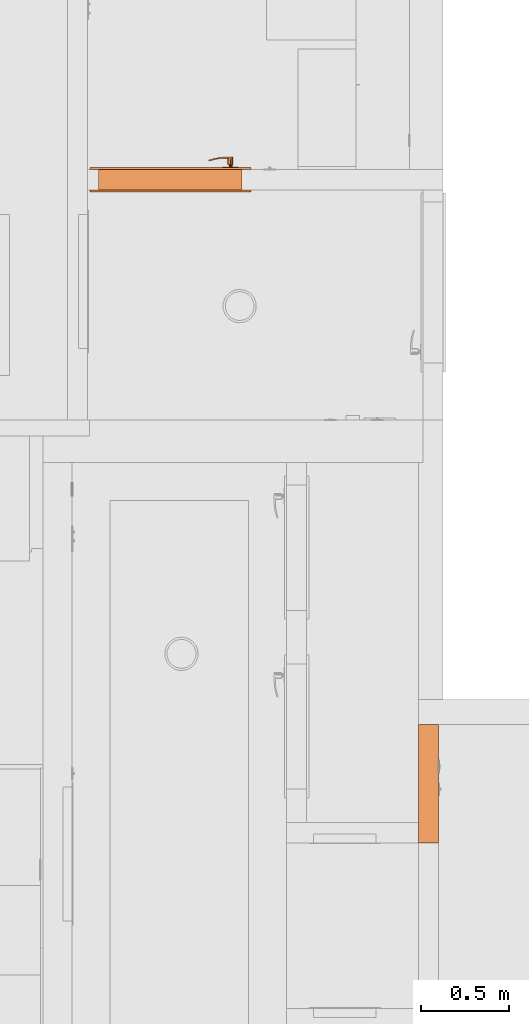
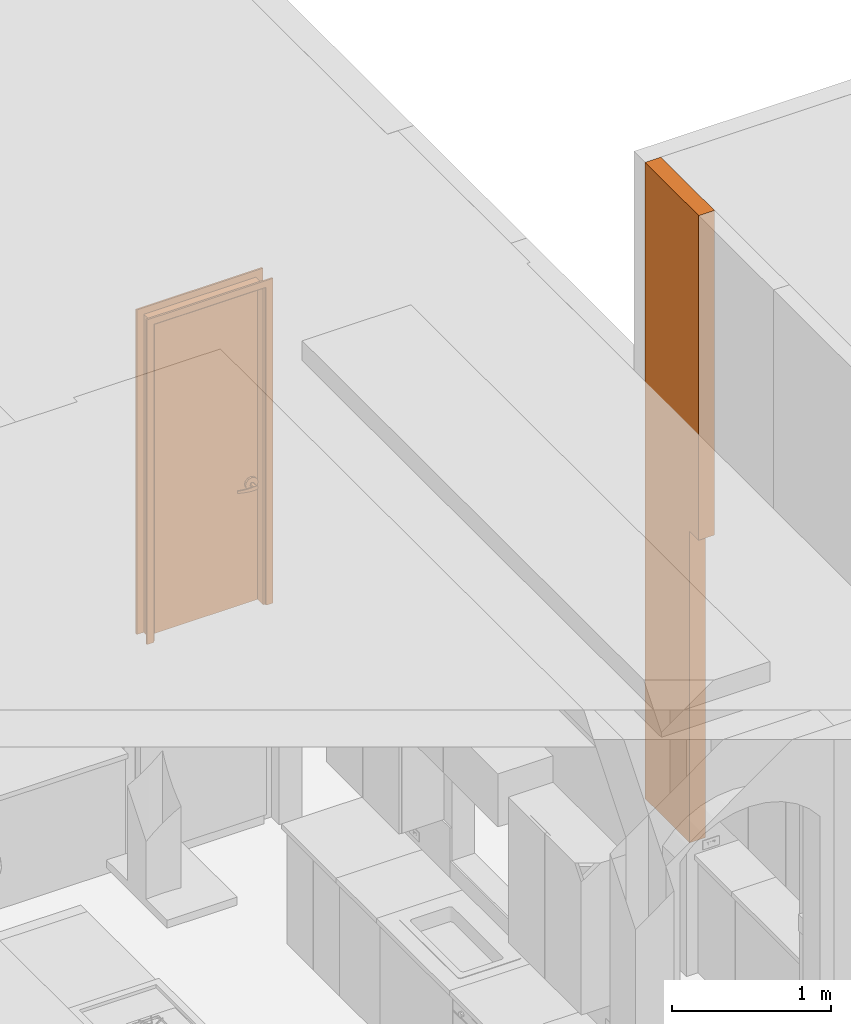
# One storey, part 94 of 103: 2 proxies.
"""IFC2X3 building model written with IfcOpenShell, lengths in inches."""

from ifc_helpers import new_model, entity, si_unit, converted_unit, derived_unit, money_unit, direction, frame, origin_with_axes, place, context, subcontext, project, spatial, open_shell, faceted_brep, surface_model, material, type_object, element, save


model = new_model("IFC2X3")

# Units and contexts
model_context = context("Model", 3, precision=0.00039370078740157, world=origin_with_axes(), true_north=direction((0.0, 1.0)))
plan_context = context("Plan", 3, precision=0.00039370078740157, world=origin_with_axes(), true_north=direction((0.0, 1.0)))
body_context = subcontext(model_context, "Body", "Model", "MODEL_VIEW")
ifc_project = project(units=[converted_unit("LENGTHUNIT", "INCH", entity("IfcPositiveLengthMeasure", 0.0254), si_unit("LENGTHUNIT", "METRE"), dimensions=[1, 0, 0, 0, 0, 0, 0]), converted_unit("AREAUNIT", "SQUARE_FOOT", entity("IfcPositiveLengthMeasure", 0.09290304), si_unit("AREAUNIT", "SQUARE_METRE"), dimensions=[2, 0, 0, 0, 0, 0, 0]), si_unit("PLANEANGLEUNIT", "RADIAN"), si_unit("SOLIDANGLEUNIT", "STERADIAN"), money_unit("USD"), converted_unit("TIMEUNIT", "Year", entity("IfcTimeMeasure", 31557600.0), si_unit("TIMEUNIT", "SECOND"), dimensions=[0, 0, 1, 0, 0, 0, 0]), si_unit("MASSUNIT", "GRAM", prefix="KILO"), si_unit("THERMODYNAMICTEMPERATUREUNIT", "DEGREE_CELSIUS"), si_unit("LUMINOUSINTENSITYUNIT", "LUMEN"), si_unit("ENERGYUNIT", "JOULE", prefix="MEGA"), derived_unit("SPECIFICHEATCAPACITYUNIT", [(si_unit("ENERGYUNIT", "JOULE"), 1), (si_unit("MASSUNIT", "GRAM", prefix="KILO"), -1), (si_unit("THERMODYNAMICTEMPERATUREUNIT", "KELVIN"), -1)])], contexts=[model_context, plan_context])

# Site, building, storey
site_placement = place(None, origin_with_axes())
site = spatial("IfcSite", under=ifc_project, at=site_placement, Name="Site", CompositionType="ELEMENT")
building_placement = place(site_placement, origin_with_axes())
building = spatial("IfcBuilding", under=site, at=building_placement, Name="Building", CompositionType="ELEMENT")
storey_placement = place(building_placement, frame((0.0, 0.0, 127.9999999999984), z_axis=(0.0, 0.0, 1.0), x_axis=(1.0, 0.0, 0.0)))
storey = spatial("IfcBuildingStorey", under=building, at=storey_placement, Name="Second Floor", CompositionType="ELEMENT", Elevation=128.0)

# Proxies
ifc_material = material(Name="Generic - Structural")
building_element_proxy_type_1 = type_object("IfcBuildingElementProxyType", Name="Generic - Structural 4 1/2\"", PredefinedType="NOTDEFINED")
proxy_1_placement = place(storey_placement, frame((243.4999999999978, 306.4999999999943, 0.0), z_axis=(0.0, 0.0, 1.0), x_axis=(0.0, 1.0, 0.0)))
element("IfcBuildingElementProxy", 1, at=proxy_1_placement, inside=storey, type_object=building_element_proxy_type_1, material=ifc_material, Name="SW - 106", context=body_context, shape_type="Brep", body=[
    faceted_brep([(0.0, 0.0, 93.99999999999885), (4.500000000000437, 0.0, 93.99999999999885), (4.500000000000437, 0.0, 0.0), (26.50000000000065, 0.0, 0.0), (26.50000000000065, 0.0, 191.9999999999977), (0.0, 0.0, 191.9999999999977), (0.0, 0.0, 119.9999999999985), (4.500000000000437, 4.499999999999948, 93.99999999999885), (0.0, 4.499999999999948, 93.99999999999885), (4.500000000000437, 4.499999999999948, 0.0), (26.50000000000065, 4.499999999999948, 0.0), (26.50000000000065, 4.499999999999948, 191.9999999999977), (0.0, 4.499999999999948, 191.9999999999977), (0.0, 4.499999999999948, 119.9999999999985)], [[[0, 1, 2, 3, 4, 5, 6]], [[7, 1, 0, 8]], [[9, 2, 1, 7]], [[3, 2, 9, 10]], [[11, 4, 3, 10]], [[4, 11, 12, 5]], [[5, 12, 13, 6]], [[13, 8, 0, 6]], [[9, 7, 8, 13, 12, 11, 10]]]),
])
building_element_proxy_type_2 = type_object("IfcBuildingElementProxyType", Name="D1", PredefinedType="NOTDEFINED")
proxy_2_placement = place(storey_placement, frame((167.4999999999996, 456.9999999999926, 0.0), z_axis=(0.0, 0.0, 1.0), x_axis=(1.0, 0.0, 0.0)))
element("IfcBuildingElementProxy", 2, at=proxy_2_placement, inside=storey, type_object=building_element_proxy_type_2, Name="D-09", context=body_context, shape_type="SurfaceModel", body=[
    faceted_brep([(33.99999999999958, -4.999999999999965, 0.0), (31.99999999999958, -4.999999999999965, 0.0), (31.99999999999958, -4.499999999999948, 0.0), (33.99999999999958, -4.499999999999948, 0.0), (33.99999999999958, -4.999999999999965, 97.99999999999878), (31.99999999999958, -4.999999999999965, 95.9999999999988), (31.99999999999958, -4.499999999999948, 95.9999999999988), (33.99999999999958, -4.499999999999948, 97.99999999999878)], [[[0, 1, 2, 3]], [[0, 4, 5, 1]], [[1, 5, 6, 2]], [[3, 2, 6, 7]], [[4, 0, 3, 7]], [[5, 4, 7, 6]]]),
    faceted_brep([(-2.0, -4.999999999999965, 97.99999999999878), (0.0, -4.999999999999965, 95.9999999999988), (0.0, -4.499999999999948, 95.9999999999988), (-2.0, -4.499999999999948, 97.99999999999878), (-2.0, -4.999999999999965, 0.0), (0.0, -4.999999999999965, 0.0), (0.0, -4.499999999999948, 0.0), (-2.0, -4.499999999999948, 0.0)], [[[0, 1, 2, 3]], [[0, 4, 5, 1]], [[1, 5, 6, 2]], [[3, 2, 6, 7]], [[4, 0, 3, 7]], [[5, 4, 7, 6]]]),
    faceted_brep([(33.99999999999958, -4.999999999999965, 97.99999999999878), (31.99999999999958, -4.999999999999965, 95.9999999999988), (31.99999999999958, -4.499999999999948, 95.9999999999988), (33.99999999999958, -4.499999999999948, 97.99999999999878), (-2.0, -4.999999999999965, 97.99999999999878), (0.0, -4.999999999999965, 95.9999999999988), (0.0, -4.499999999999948, 95.9999999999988), (-2.0, -4.499999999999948, 97.99999999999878)], [[[0, 1, 2, 3]], [[0, 4, 5, 1]], [[1, 5, 6, 2]], [[3, 2, 6, 7]], [[4, 0, 3, 7]], [[5, 4, 7, 6]]]),
    faceted_brep([(33.99999999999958, 0.5000000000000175, 0.0), (33.99999999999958, 0.0, 0.0), (31.99999999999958, 0.0, 0.0), (31.99999999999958, 0.5000000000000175, 0.0), (33.99999999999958, 0.4999999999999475, 97.99999999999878), (33.99999999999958, 0.0, 97.99999999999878), (31.99999999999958, 0.0, 95.9999999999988), (31.99999999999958, 0.4999999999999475, 95.9999999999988)], [[[0, 1, 2, 3]], [[4, 5, 1, 0]], [[1, 5, 6, 2]], [[3, 2, 6, 7]], [[0, 3, 7, 4]], [[7, 6, 5, 4]]]),
    faceted_brep([(-2.0, 0.4999999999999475, 97.99999999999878), (-2.0, 0.0, 97.99999999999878), (0.0, 0.0, 95.9999999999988), (0.0, 0.4999999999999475, 95.9999999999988), (-2.0, 0.5000000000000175, 0.0), (-2.0, 0.0, 0.0), (0.0, 0.0, 0.0), (0.0, 0.5000000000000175, 0.0)], [[[0, 1, 2, 3]], [[4, 5, 1, 0]], [[1, 5, 6, 2]], [[3, 2, 6, 7]], [[0, 3, 7, 4]], [[7, 6, 5, 4]]]),
    faceted_brep([(33.99999999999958, 0.4999999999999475, 97.99999999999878), (33.99999999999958, 0.0, 97.99999999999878), (31.99999999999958, 0.0, 95.9999999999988), (31.99999999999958, 0.4999999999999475, 95.9999999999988), (-2.0, 0.4999999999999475, 97.99999999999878), (-2.0, 0.0, 97.99999999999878), (0.0, 0.0, 95.9999999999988), (0.0, 0.4999999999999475, 95.9999999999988)], [[[0, 1, 2, 3]], [[4, 5, 1, 0]], [[1, 5, 6, 2]], [[3, 2, 6, 7]], [[0, 3, 7, 4]], [[7, 6, 5, 4]]]),
    faceted_brep([(31.99999999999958, 0.0, 0.0), (31.99999999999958, -4.499999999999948, 0.0), (31.4999999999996, -4.499999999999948, 0.0), (31.4999999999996, 0.0, 0.0), (31.99999999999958, 0.0, 95.49999999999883), (31.99999999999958, -4.499999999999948, 95.49999999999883), (31.4999999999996, -4.499999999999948, 95.49999999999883), (31.4999999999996, 0.0, 95.49999999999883)], [[[0, 1, 2, 3]], [[4, 5, 1, 0]], [[1, 5, 6, 2]], [[3, 2, 6, 7]], [[0, 3, 7, 4]], [[7, 6, 5, 4]]]),
    faceted_brep([(0.0, 0.0, 0.0), (0.0, -4.499999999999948, 0.0), (0.0, -4.499999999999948, 95.49999999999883), (0.0, 0.0, 95.49999999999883), (0.4999999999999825, 0.0, 0.0), (0.4999999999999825, -4.499999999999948, 0.0), (0.4999999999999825, -4.499999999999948, 95.49999999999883), (0.4999999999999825, 0.0, 95.49999999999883)], [[[0, 1, 2, 3]], [[4, 5, 1, 0]], [[1, 5, 6, 2]], [[3, 2, 6, 7]], [[0, 3, 7, 4]], [[7, 6, 5, 4]]]),
    faceted_brep([(31.99999999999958, 0.0, 95.9999999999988), (31.99999999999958, -4.499999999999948, 95.9999999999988), (31.99999999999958, -4.499999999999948, 95.49999999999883), (31.99999999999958, 0.0, 95.49999999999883), (0.0, 0.0, 95.9999999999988), (0.0, -4.499999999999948, 95.9999999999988), (0.0, -4.499999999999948, 95.49999999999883), (0.4999999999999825, -4.499999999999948, 95.49999999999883), (31.4999999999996, -4.499999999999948, 95.49999999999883), (31.4999999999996, 0.0, 95.49999999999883), (0.4999999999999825, 0.0, 95.49999999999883), (0.0, 0.0, 95.49999999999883)], [[[0, 1, 2, 3]], [[4, 5, 1, 0]], [[1, 5, 6, 7, 8, 2]], [[3, 2, 8, 9]], [[0, 3, 9, 10, 11, 4]], [[11, 6, 5, 4]], [[10, 7, 6, 11]], [[9, 8, 7, 10]]]),
    surface_model("IfcShellBasedSurfaceModel", [(27.94865528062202, -2.340551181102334, 36.89566929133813), (27.94865528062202, -2.336614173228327, 36.89566929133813), (27.70866141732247, -2.336614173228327, 35.99999999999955), (27.70866141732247, -2.340551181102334, 35.99999999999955), (28.60433070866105, -2.340551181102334, 37.55134471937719), (28.60433070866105, -2.336614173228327, 37.55134471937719), (27.94865528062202, -1.753937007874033, 36.89566929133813), (27.70866141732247, -1.753937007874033, 35.99999999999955), (27.94865528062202, -2.336614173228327, 35.104330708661), (27.94865528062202, -2.340551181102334, 35.104330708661), (28.60433070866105, -2.340551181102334, 34.44865528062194), (29.49999999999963, -2.340551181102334, 34.20866141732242), (30.39566929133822, -2.340551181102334, 34.44865528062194), (31.05134471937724, -2.340551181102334, 35.104330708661), (31.29133858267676, -2.340551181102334, 35.99999999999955), (31.05134471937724, -2.340551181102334, 36.89566929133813), (30.39566929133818, -2.340551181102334, 37.55134471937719), (29.49999999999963, -2.340551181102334, 37.79133858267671), (29.49999999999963, -2.336614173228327, 37.79133858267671), (28.60433070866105, -1.753937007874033, 37.55134471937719), (27.94865528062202, -1.749999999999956, 36.89566929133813), (27.70866141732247, -1.749999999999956, 35.99999999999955), (27.94865528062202, -1.753937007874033, 35.104330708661), (28.60433070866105, -2.336614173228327, 34.44865528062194), (29.49999999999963, -2.336614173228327, 34.20866141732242), (30.39566929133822, -2.336614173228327, 34.44865528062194), (31.05134471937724, -2.336614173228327, 35.104330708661), (31.29133858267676, -2.336614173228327, 35.99999999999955), (31.05134471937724, -2.336614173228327, 36.89566929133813), (30.39566929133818, -2.336614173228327, 37.55134471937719), (29.49999999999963, -1.753937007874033, 37.79133858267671), (28.60433070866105, -1.749999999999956, 37.55134471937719), (27.94865528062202, -1.749999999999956, 35.104330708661), (28.60433070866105, -1.753937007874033, 34.44865528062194), (29.49999999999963, -1.753937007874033, 34.20866141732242), (30.39566929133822, -1.753937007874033, 34.44865528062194), (31.05134471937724, -1.753937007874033, 35.104330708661), (31.29133858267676, -1.753937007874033, 35.99999999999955), (31.05134471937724, -1.753937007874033, 36.89566929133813), (30.39566929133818, -1.753937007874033, 37.55134471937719), (29.49999999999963, -1.749999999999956, 37.79133858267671), (28.60433070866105, -1.749999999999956, 34.44865528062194), (29.49999999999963, -1.749999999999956, 34.20866141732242), (30.39566929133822, -1.749999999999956, 34.44865528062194), (31.05134471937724, -1.749999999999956, 35.104330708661), (31.29133858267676, -1.749999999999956, 35.99999999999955), (31.05134471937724, -1.749999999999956, 36.89566929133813), (30.39566929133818, -1.749999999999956, 37.55134471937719)], [open_shell([[[0, 1, 2, 3]], [[4, 5, 1, 0]], [[1, 6, 7, 2]], [[3, 2, 8, 9]], [[3, 9, 10, 11, 12, 13, 14, 15, 16, 17, 4, 0]], [[17, 18, 5, 4]], [[5, 19, 6, 1]], [[6, 20, 21, 7]], [[2, 7, 22, 8]], [[9, 8, 23, 10]], [[10, 23, 24, 11]], [[11, 24, 25, 12]], [[12, 25, 26, 13]], [[13, 26, 27, 14]], [[14, 27, 28, 15]], [[15, 28, 29, 16]], [[16, 29, 18, 17]], [[18, 30, 19, 5]], [[19, 31, 20, 6]], [[7, 21, 32, 22]], [[8, 22, 33, 23]], [[23, 33, 34, 24]], [[24, 34, 35, 25]], [[25, 35, 36, 26]], [[26, 36, 37, 27]], [[27, 37, 38, 28]], [[28, 38, 39, 29]], [[29, 39, 30, 18]], [[30, 40, 31, 19]], [[22, 32, 41, 33]], [[33, 41, 42, 34]], [[34, 42, 43, 35]], [[35, 43, 44, 36]], [[36, 44, 45, 37]], [[37, 45, 46, 38]], [[38, 46, 47, 39]], [[39, 47, 40, 30]]])]),
    faceted_brep([(29.69685039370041, -2.340551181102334, 35.65904511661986), (29.49999999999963, -2.340551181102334, 35.60629921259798), (29.30314960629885, -2.340551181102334, 35.65904511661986), (29.15904511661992, -2.340551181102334, 35.80314960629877), (29.10629921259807, -2.340551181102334, 35.99999999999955), (29.15904511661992, -2.340551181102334, 36.19685039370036), (29.30314960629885, -2.340551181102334, 36.34095488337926), (29.49999999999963, -2.340551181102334, 36.39370078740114), (29.69685039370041, -2.340551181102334, 36.34095488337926), (29.84095488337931, -2.340551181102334, 36.19685039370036), (29.89370078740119, -2.340551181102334, 35.99999999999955), (29.84095488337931, -2.340551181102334, 35.80314960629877), (29.69685039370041, -2.852362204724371, 35.65904511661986), (29.49999999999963, -2.852362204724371, 35.60629921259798), (29.30314960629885, -2.852362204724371, 35.65904511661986), (29.15904511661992, -2.852362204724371, 35.80314960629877), (29.10629921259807, -2.852362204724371, 35.99999999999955), (29.15904511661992, -2.852362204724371, 36.19685039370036), (29.30314960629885, -2.852362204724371, 36.34095488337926), (29.49999999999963, -2.852362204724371, 36.39370078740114), (29.69685039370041, -2.852362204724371, 36.34095488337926), (29.84095488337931, -2.852362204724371, 36.19685039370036), (29.89370078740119, -2.852362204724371, 35.99999999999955), (29.84095488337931, -2.852362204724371, 35.80314960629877)], [[[0, 1, 2, 3, 4, 5, 6, 7, 8, 9, 10, 11]], [[0, 12, 13, 1]], [[1, 13, 14, 2]], [[2, 14, 15, 3]], [[3, 15, 16, 4]], [[4, 16, 17, 5]], [[5, 17, 18, 6]], [[6, 18, 19, 7]], [[7, 19, 20, 8]], [[8, 20, 21, 9]], [[9, 21, 22, 10]], [[10, 22, 23, 11]], [[11, 23, 12, 0]], [[12, 23, 22, 21, 20, 19, 18, 17, 16, 15, 14, 13]]]),
    faceted_brep([(29.49999999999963, -2.852362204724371, 36.55118110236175), (29.49999999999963, -4.269685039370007, 36.55118110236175), (29.77559055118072, -4.269685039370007, 36.47733683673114), (29.77559055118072, -2.852362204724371, 36.47733683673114), (29.10629921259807, -2.852362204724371, 36.47244094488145), (29.10629921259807, -4.269685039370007, 36.47244094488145), (28.87352117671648, -4.269685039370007, 36.35358914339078), (28.73705189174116, -4.269685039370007, 36.13068221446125), (28.73705189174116, -4.269685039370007, 35.86931778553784), (28.87352117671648, -4.269685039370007, 35.64641085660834), (29.10629921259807, -4.269685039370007, 35.52755905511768), (29.49999999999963, -4.269685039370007, 35.44881889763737), (29.77559055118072, -4.269685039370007, 35.52266316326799), (29.97733683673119, -4.269685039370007, 35.72440944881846), (30.05118110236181, -4.269685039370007, 35.99999999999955), (29.97733683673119, -4.269685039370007, 36.27559055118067), (29.97733683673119, -2.852362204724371, 36.27559055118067), (30.05118110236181, -2.852362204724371, 35.99999999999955), (29.97733683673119, -2.852362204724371, 35.72440944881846), (29.77559055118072, -2.852362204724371, 35.52266316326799), (29.49999999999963, -2.852362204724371, 35.44881889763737), (29.10629921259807, -2.852362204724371, 35.52755905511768), (28.87352117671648, -2.852362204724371, 35.64641085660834), (28.73705189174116, -2.852362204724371, 35.86931778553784), (28.73705189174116, -2.852362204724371, 36.13068221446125), (28.87352117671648, -2.852362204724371, 36.35358914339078)], [[[0, 1, 2, 3]], [[4, 5, 1, 0]], [[1, 5, 6, 7, 8, 9, 10, 11, 12, 13, 14, 15, 2]], [[3, 2, 15, 16]], [[0, 3, 16, 17, 18, 19, 20, 21, 22, 23, 24, 25, 4]], [[25, 6, 5, 4]], [[24, 7, 6, 25]], [[23, 8, 7, 24]], [[22, 9, 8, 23]], [[21, 10, 9, 22]], [[20, 11, 10, 21]], [[19, 12, 11, 20]], [[18, 13, 12, 19]], [[17, 14, 13, 18]], [[16, 15, 14, 17]]]),
    surface_model("IfcShellBasedSurfaceModel", [(29.49999999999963, -4.269685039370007, 36.55118110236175), (29.49999999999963, -4.545275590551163, 36.55118110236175), (29.77559055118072, -4.545275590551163, 36.47733683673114), (29.77559055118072, -4.269685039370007, 36.47733683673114), (28.51574803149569, -4.269685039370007, 36.55118110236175), (28.51574803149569, -4.545275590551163, 36.55118110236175), (28.51574803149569, -4.545275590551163, 35.44881889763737), (29.49999999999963, -4.545275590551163, 35.44881889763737), (29.77559055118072, -4.545275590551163, 35.52266316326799), (29.97733683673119, -4.545275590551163, 35.72440944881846), (30.05118110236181, -4.545275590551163, 35.99999999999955), (29.97733683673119, -4.545275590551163, 36.27559055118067), (29.97733683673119, -4.269685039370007, 36.27559055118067), (30.05118110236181, -4.269685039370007, 35.99999999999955), (29.97733683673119, -4.269685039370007, 35.72440944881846), (29.77559055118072, -4.269685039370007, 35.52266316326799), (29.49999999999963, -4.269685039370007, 35.44881889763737), (28.51574803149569, -4.269685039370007, 35.44881889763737)], [open_shell([[[0, 1, 2, 3]], [[4, 5, 1, 0]], [[1, 5, 6, 7, 8, 9, 10, 11, 2]], [[3, 2, 11, 12]], [[0, 3, 12, 13, 14, 15, 16, 17, 4]], [[16, 7, 6, 17]], [[15, 8, 7, 16]], [[14, 9, 8, 15]], [[13, 10, 9, 14]], [[12, 11, 10, 13]]])]),
    surface_model("IfcShellBasedSurfaceModel", [(28.51574803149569, -4.269685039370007, 35.44881889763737), (27.98803506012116, -4.545275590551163, 35.47974008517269), (28.00006760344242, -4.269685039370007, 35.47974008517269), (28.51574803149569, -4.545275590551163, 35.44881889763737), (26.93662533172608, -4.453289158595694, 35.54158246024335), (28.00006760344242, -4.269685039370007, 36.52025991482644), (28.51574803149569, -4.269685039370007, 36.55118110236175), (28.51574803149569, -4.545275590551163, 36.55118110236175), (27.98803506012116, -4.545275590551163, 36.52025991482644), (26.93662533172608, -4.453289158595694, 36.45841753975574), (26.97263138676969, -4.179796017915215, 35.54158246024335), (26.97263138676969, -4.179796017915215, 36.45841753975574), (25.89723368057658, -4.270016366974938, 36.39657516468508), (25.89723368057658, -4.270016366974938, 35.60342483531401), (25.95693921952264, -4.000702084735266, 35.60342483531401), (25.95693921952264, -4.000702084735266, 36.39657516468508), (24.87777050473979, -3.996852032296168, 36.33473278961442), (24.87777050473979, -3.996852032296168, 35.66526721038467), (24.96072113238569, -3.733766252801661, 35.66526721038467), (24.96072113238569, -3.733766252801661, 36.33473278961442), (24.56058250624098, -3.881405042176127, 36.3149606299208), (24.56058250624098, -3.881405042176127, 35.68503937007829), (24.65076543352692, -3.620951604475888, 35.68503937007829), (24.65076543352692, -3.620951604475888, 36.3149606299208)], [open_shell([[[0, 1, 2]], [[0, 3, 1]], [[2, 1, 4]], [[0, 2, 5, 6]], [[3, 7, 8, 1]], [[1, 8, 9, 4]], [[2, 4, 10]], [[2, 10, 11, 5]], [[5, 7, 6]], [[5, 8, 7]], [[11, 9, 8]], [[4, 9, 12, 13]], [[10, 4, 13]], [[10, 14, 15, 11]], [[11, 8, 5]], [[15, 9, 11]], [[15, 12, 9]], [[13, 12, 16, 17]], [[10, 13, 14]], [[14, 18, 19, 15]], [[19, 12, 15]], [[19, 16, 12]], [[17, 16, 20, 21]], [[14, 13, 17]], [[14, 17, 18]], [[18, 22, 23, 19]], [[23, 16, 19]], [[23, 20, 16]], [[22, 21, 20, 23]], [[18, 17, 21]], [[18, 21, 22]]])]),
    surface_model("IfcShellBasedSurfaceModel", [(27.94865528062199, 0.5905511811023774, 36.89566929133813), (27.70866141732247, 0.5905511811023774, 35.99999999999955), (27.70866141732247, 0.5866141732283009, 35.99999999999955), (27.94865528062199, 0.5866141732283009, 36.89566929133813), (28.60433070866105, 0.5905511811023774, 37.55134471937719), (29.49999999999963, 0.5905511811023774, 37.79133858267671), (30.39566929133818, 0.5905511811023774, 37.55134471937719), (31.05134471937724, 0.5905511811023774, 36.89566929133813), (31.29133858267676, 0.5905511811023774, 35.99999999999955), (31.05134471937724, 0.5905511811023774, 35.104330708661), (30.39566929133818, 0.5905511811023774, 34.44865528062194), (29.49999999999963, 0.5905511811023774, 34.20866141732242), (28.60433070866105, 0.5905511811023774, 34.44865528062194), (27.94865528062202, 0.5905511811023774, 35.104330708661), (27.94865528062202, 0.5866141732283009, 35.104330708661), (27.70866141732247, 0.003937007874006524, 35.99999999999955), (27.94865528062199, 0.003937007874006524, 36.89566929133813), (28.60433070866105, 0.5866141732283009, 37.55134471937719), (29.49999999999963, 0.5866141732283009, 37.79133858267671), (30.39566929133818, 0.5866141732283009, 37.55134471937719), (31.05134471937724, 0.5866141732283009, 36.89566929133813), (31.29133858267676, 0.5866141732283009, 35.99999999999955), (31.05134471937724, 0.5866141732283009, 35.104330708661), (30.39566929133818, 0.5866141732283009, 34.44865528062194), (29.49999999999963, 0.5866141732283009, 34.20866141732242), (28.60433070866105, 0.5866141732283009, 34.44865528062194), (27.94865528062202, 0.003937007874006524, 35.104330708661), (27.70866141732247, 0.0, 35.99999999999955), (27.94865528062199, 0.0, 36.89566929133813), (28.60433070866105, 0.003937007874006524, 37.55134471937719), (29.49999999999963, 0.003937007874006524, 37.79133858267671), (30.39566929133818, 0.003937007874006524, 37.55134471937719), (31.05134471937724, 0.003937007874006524, 36.89566929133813), (31.29133858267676, 0.003937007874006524, 35.99999999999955), (31.05134471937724, 0.003937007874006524, 35.104330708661), (30.39566929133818, 0.003937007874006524, 34.44865528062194), (29.49999999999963, 0.003937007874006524, 34.20866141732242), (28.60433070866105, 0.003937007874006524, 34.44865528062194), (27.94865528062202, 0.0, 35.104330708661), (28.60433070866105, 0.0, 37.55134471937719), (29.49999999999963, 0.0, 37.79133858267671), (30.39566929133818, 0.0, 37.55134471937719), (31.05134471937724, 0.0, 36.89566929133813), (31.29133858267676, 0.0, 35.99999999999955), (31.05134471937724, 0.0, 35.104330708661), (30.39566929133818, 0.0, 34.44865528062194), (29.49999999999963, 0.0, 34.20866141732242), (28.60433070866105, 0.0, 34.44865528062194)], [open_shell([[[0, 1, 2, 3]], [[1, 0, 4, 5, 6, 7, 8, 9, 10, 11, 12, 13]], [[1, 13, 14, 2]], [[3, 2, 15, 16]], [[4, 0, 3, 17]], [[5, 4, 17, 18]], [[6, 5, 18, 19]], [[7, 6, 19, 20]], [[8, 7, 20, 21]], [[9, 8, 21, 22]], [[10, 9, 22, 23]], [[11, 10, 23, 24]], [[12, 11, 24, 25]], [[13, 12, 25, 14]], [[2, 14, 26, 15]], [[16, 15, 27, 28]], [[17, 3, 16, 29]], [[18, 17, 29, 30]], [[19, 18, 30, 31]], [[20, 19, 31, 32]], [[21, 20, 32, 33]], [[22, 21, 33, 34]], [[23, 22, 34, 35]], [[24, 23, 35, 36]], [[25, 24, 36, 37]], [[14, 25, 37, 26]], [[15, 26, 38, 27]], [[29, 16, 28, 39]], [[30, 29, 39, 40]], [[31, 30, 40, 41]], [[32, 31, 41, 42]], [[33, 32, 42, 43]], [[34, 33, 43, 44]], [[35, 34, 44, 45]], [[36, 35, 45, 46]], [[37, 36, 46, 47]], [[26, 37, 47, 38]]])]),
    faceted_brep([(29.69685039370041, 0.5905511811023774, 35.65904511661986), (29.84095488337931, 0.5905511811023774, 35.80314960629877), (29.89370078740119, 0.5905511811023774, 35.99999999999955), (29.84095488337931, 0.5905511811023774, 36.19685039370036), (29.69685039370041, 0.5905511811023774, 36.34095488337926), (29.49999999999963, 0.5905511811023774, 36.39370078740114), (29.30314960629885, 0.5905511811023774, 36.34095488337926), (29.15904511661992, 0.5905511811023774, 36.19685039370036), (29.10629921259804, 0.5905511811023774, 35.99999999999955), (29.15904511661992, 0.5905511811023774, 35.80314960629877), (29.30314960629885, 0.5905511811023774, 35.65904511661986), (29.49999999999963, 0.5905511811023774, 35.60629921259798), (29.69685039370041, 1.102362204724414, 35.65904511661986), (29.84095488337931, 1.102362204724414, 35.80314960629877), (29.89370078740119, 1.102362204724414, 35.99999999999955), (29.84095488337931, 1.102362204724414, 36.19685039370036), (29.69685039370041, 1.102362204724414, 36.34095488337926), (29.49999999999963, 1.102362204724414, 36.39370078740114), (29.30314960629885, 1.102362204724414, 36.34095488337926), (29.15904511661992, 1.102362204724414, 36.19685039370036), (29.10629921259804, 1.102362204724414, 35.99999999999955), (29.15904511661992, 1.102362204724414, 35.80314960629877), (29.30314960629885, 1.102362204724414, 35.65904511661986), (29.49999999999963, 1.102362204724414, 35.60629921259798)], [[[0, 1, 2, 3, 4, 5, 6, 7, 8, 9, 10, 11]], [[1, 0, 12, 13]], [[2, 1, 13, 14]], [[3, 2, 14, 15]], [[4, 3, 15, 16]], [[5, 4, 16, 17]], [[6, 5, 17, 18]], [[7, 6, 18, 19]], [[8, 7, 19, 20]], [[9, 8, 20, 21]], [[10, 9, 21, 22]], [[11, 10, 22, 23]], [[0, 11, 23, 12]], [[12, 23, 22, 21, 20, 19, 18, 17, 16, 15, 14, 13]]]),
    faceted_brep([(29.49999999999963, 1.102362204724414, 36.55118110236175), (29.77559055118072, 1.102362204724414, 36.47733683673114), (29.77559055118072, 2.51968503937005, 36.47733683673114), (29.49999999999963, 2.51968503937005, 36.55118110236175), (29.10629921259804, 1.102362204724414, 36.47244094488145), (28.87352117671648, 1.102362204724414, 36.35358914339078), (28.73705189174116, 1.102362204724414, 36.13068221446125), (28.73705189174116, 1.102362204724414, 35.86931778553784), (28.87352117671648, 1.102362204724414, 35.64641085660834), (29.10629921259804, 1.102362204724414, 35.52755905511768), (29.49999999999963, 1.102362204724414, 35.44881889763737), (29.77559055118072, 1.102362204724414, 35.52266316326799), (29.97733683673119, 1.102362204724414, 35.72440944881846), (30.05118110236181, 1.102362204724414, 35.99999999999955), (29.97733683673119, 1.102362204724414, 36.27559055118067), (29.97733683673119, 2.51968503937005, 36.27559055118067), (30.05118110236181, 2.51968503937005, 35.99999999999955), (29.97733683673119, 2.51968503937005, 35.72440944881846), (29.77559055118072, 2.51968503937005, 35.52266316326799), (29.49999999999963, 2.51968503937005, 35.44881889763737), (29.10629921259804, 2.51968503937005, 35.52755905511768), (28.87352117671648, 2.51968503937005, 35.64641085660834), (28.73705189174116, 2.51968503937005, 35.86931778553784), (28.73705189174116, 2.51968503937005, 36.13068221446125), (28.87352117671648, 2.51968503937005, 36.35358914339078), (29.10629921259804, 2.51968503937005, 36.47244094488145)], [[[0, 1, 2, 3]], [[0, 4, 5, 6, 7, 8, 9, 10, 11, 12, 13, 14, 1]], [[1, 14, 15, 2]], [[3, 2, 15, 16, 17, 18, 19, 20, 21, 22, 23, 24, 25]], [[4, 0, 3, 25]], [[5, 4, 25, 24]], [[6, 5, 24, 23]], [[7, 6, 23, 22]], [[8, 7, 22, 21]], [[9, 8, 21, 20]], [[10, 9, 20, 19]], [[11, 10, 19, 18]], [[12, 11, 18, 17]], [[13, 12, 17, 16]], [[14, 13, 16, 15]]]),
    surface_model("IfcShellBasedSurfaceModel", [(29.49999999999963, 2.51968503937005, 36.55118110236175), (29.77559055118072, 2.51968503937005, 36.47733683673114), (29.77559055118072, 2.795275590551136, 36.47733683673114), (29.49999999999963, 2.795275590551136, 36.55118110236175), (28.51574803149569, 2.51968503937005, 36.55118110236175), (28.51574803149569, 2.51968503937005, 35.44881889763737), (29.49999999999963, 2.51968503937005, 35.44881889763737), (29.77559055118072, 2.51968503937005, 35.52266316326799), (29.97733683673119, 2.51968503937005, 35.72440944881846), (30.05118110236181, 2.51968503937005, 35.99999999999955), (29.97733683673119, 2.51968503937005, 36.27559055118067), (29.97733683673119, 2.795275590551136, 36.27559055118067), (30.05118110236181, 2.795275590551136, 35.99999999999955), (29.97733683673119, 2.795275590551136, 35.72440944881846), (29.77559055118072, 2.795275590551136, 35.52266316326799), (29.49999999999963, 2.795275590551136, 35.44881889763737), (28.51574803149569, 2.795275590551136, 35.44881889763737), (28.51574803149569, 2.795275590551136, 36.55118110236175)], [open_shell([[[0, 1, 2, 3]], [[0, 4, 5, 6, 7, 8, 9, 10, 1]], [[1, 10, 11, 2]], [[3, 2, 11, 12, 13, 14, 15, 16, 17]], [[4, 0, 3, 17]], [[6, 5, 16, 15]], [[7, 6, 15, 14]], [[8, 7, 14, 13]], [[9, 8, 13, 12]], [[10, 9, 12, 11]]])]),
    surface_model("IfcShellBasedSurfaceModel", [(28.51574803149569, 2.51968503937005, 35.44881889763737), (28.00006760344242, 2.51968503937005, 35.47974008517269), (27.98803506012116, 2.795275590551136, 35.47974008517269), (28.51574803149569, 2.51968503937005, 36.55118110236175), (28.00006760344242, 2.51968503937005, 36.52025991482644), (26.93662533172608, 2.703289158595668, 35.54158246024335), (28.51574803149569, 2.795275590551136, 35.44881889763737), (28.51574803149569, 2.795275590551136, 36.55118110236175), (26.97263138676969, 2.429796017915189, 36.45841753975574), (26.97263138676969, 2.429796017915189, 35.54158246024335), (26.93662533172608, 2.703289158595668, 36.45841753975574), (27.98803506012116, 2.795275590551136, 36.52025991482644), (25.9569392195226, 2.250702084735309, 36.39657516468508), (25.9569392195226, 2.250702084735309, 35.60342483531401), (25.89723368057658, 2.520016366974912, 35.60342483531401), (25.89723368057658, 2.520016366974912, 36.39657516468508), (24.96072113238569, 1.983766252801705, 36.33473278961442), (24.96072113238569, 1.983766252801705, 35.66526721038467), (24.87777050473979, 2.246852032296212, 35.66526721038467), (24.87777050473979, 2.246852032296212, 36.33473278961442), (24.65076543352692, 1.870951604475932, 36.3149606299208), (24.65076543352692, 1.870951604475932, 35.68503937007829), (24.56058250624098, 2.131405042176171, 35.68503937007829), (24.56058250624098, 2.131405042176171, 36.3149606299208)], [open_shell([[[0, 1, 2]], [[0, 3, 4, 1]], [[1, 5, 2]], [[0, 2, 6]], [[4, 3, 7]], [[1, 4, 8, 9]], [[1, 9, 5]], [[2, 5, 10, 11]], [[6, 2, 11, 7]], [[4, 7, 11]], [[8, 4, 11]], [[9, 8, 12, 13]], [[9, 14, 5]], [[5, 14, 15, 10]], [[8, 11, 10]], [[12, 8, 10]], [[13, 12, 16, 17]], [[9, 13, 14]], [[14, 18, 19, 15]], [[12, 10, 15]], [[16, 12, 15]], [[17, 16, 20, 21]], [[13, 17, 18]], [[13, 18, 14]], [[18, 22, 23, 19]], [[16, 15, 19]], [[20, 16, 19]], [[21, 20, 23, 22]], [[17, 21, 22]], [[17, 22, 18]], [[20, 19, 23]]])]),
    faceted_brep([(31.46062992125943, -1.749999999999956, 0.03937007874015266), (31.46062992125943, -1.749999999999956, 95.46062992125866), (0.5393700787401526, -1.749999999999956, 95.46062992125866), (0.5393700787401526, -1.749999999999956, 0.03937007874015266), (31.46062992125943, 0.0, 0.03937007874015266), (31.46062992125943, 0.0, 95.46062992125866), (0.5393700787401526, 0.0, 95.46062992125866), (0.5393700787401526, 0.0, 0.03937007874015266)], [[[0, 1, 2, 3]], [[4, 5, 1, 0]], [[2, 1, 5, 6]], [[3, 2, 6, 7]], [[7, 4, 0, 3]], [[7, 6, 5, 4]]]),
    faceted_brep([(0.4999999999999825, 0.0, 0.0), (31.4999999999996, 0.0, 0.0), (31.4999999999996, -1.749999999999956, 0.0), (0.4999999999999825, -1.749999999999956, 0.0), (0.4999999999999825, 0.0, 95.49999999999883), (31.4999999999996, 0.0, 95.49999999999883), (0.5393700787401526, 0.0, 0.03937007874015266), (31.46062992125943, 0.0, 0.03937007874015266), (31.46062992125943, 0.0, 95.46062992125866), (0.5393700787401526, 0.0, 95.46062992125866), (31.4999999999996, -1.749999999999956, 95.49999999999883), (0.4999999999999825, -1.749999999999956, 95.49999999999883), (0.5393700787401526, -1.749999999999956, 0.03937007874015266), (0.5393700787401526, -1.749999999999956, 95.46062992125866), (31.46062992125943, -1.749999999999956, 95.46062992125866), (31.46062992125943, -1.749999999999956, 0.03937007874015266)], [[[0, 1, 2, 3]], [[0, 4, 5, 1], [6, 7, 8, 9]], [[1, 5, 10, 2]], [[3, 2, 10, 11], [12, 13, 14, 15]], [[4, 0, 3, 11]], [[5, 4, 11, 10]], [[7, 6, 12, 15]], [[8, 7, 15, 14]], [[9, 8, 14, 13]], [[6, 9, 13, 12]]]),
])

save(model, "model.ifc")
